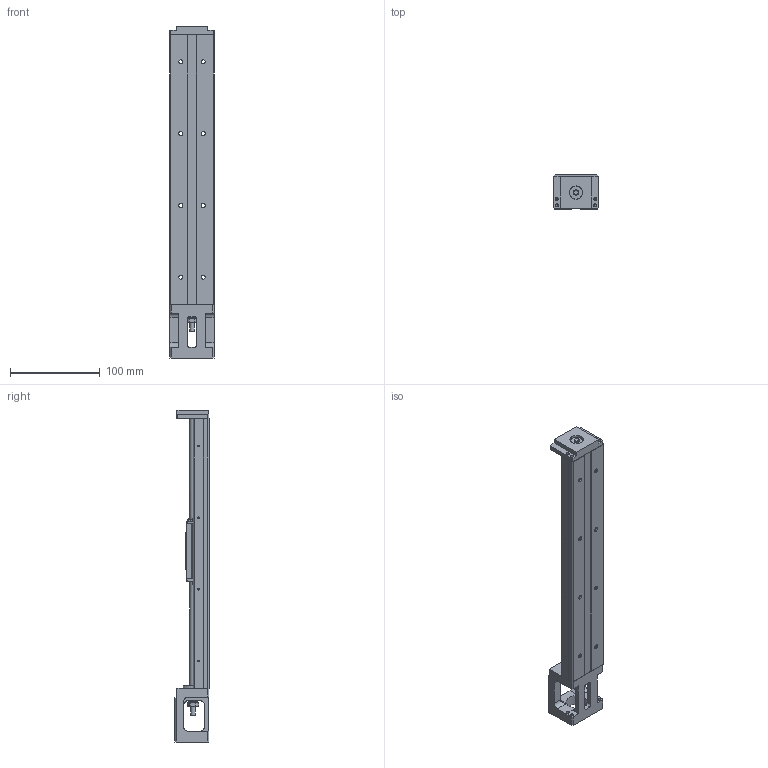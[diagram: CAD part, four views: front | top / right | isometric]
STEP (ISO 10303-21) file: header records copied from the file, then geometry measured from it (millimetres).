
FILE_DESCRIPTION(/* description */ (''),/* implementation_level */ '2;1');
FILE_NAME(/* name */ '26-300.stp',/* time_stamp */ '2016-12-16T14:56:36+08:00',/* author */ (''),/* organization */ (''),/* preprocessor_version */ 'ST-DEVELOPER v11',/* originating_system */ 'SIEMENS UGS NX 6.0',/* authorisation */ '');
FILE_SCHEMA (('AUTOMOTIVE_DESIGN { 1 0 10303 214 1 1 1 1 }'));
Length unit declared in the file: millimetre
Products named in the file (1): model4
Bounding box: 50 x 38.5 x 370 mm (x, y, z)
Volume: 260044.4 mm3; surface area: 92697.4 mm2
Topology: 5 solids, 10 shells, 673 faces, 1744 edges, 1123 vertices
Faces by surface type: plane 343, cylinder 238, cone 61, bspline 20, torus 6, extrusion 4, sphere 1
Full cylindrical faces by diameter (mm): 1.6 x8, 2.42 x10, 2.5 x5, 2.8 x6, 3.2 x4, 3.3 x2, 3.5 x6, 4 x4, 4.5 x8, 5 x7, 5.7 x1, 6 x9, 8 x33, 9 x2, 10 x1, 15 x2, 16.9 x1
Entity records: 29474 total; most frequent: CARTESIAN_POINT 11340, DIRECTION 3059, ORIENTED_EDGE 2988, EDGE_CURVE 1494, AXIS2_PLACEMENT_3D 1096, VERTEX_POINT 1045, EDGE_LOOP 895, VECTOR 867
